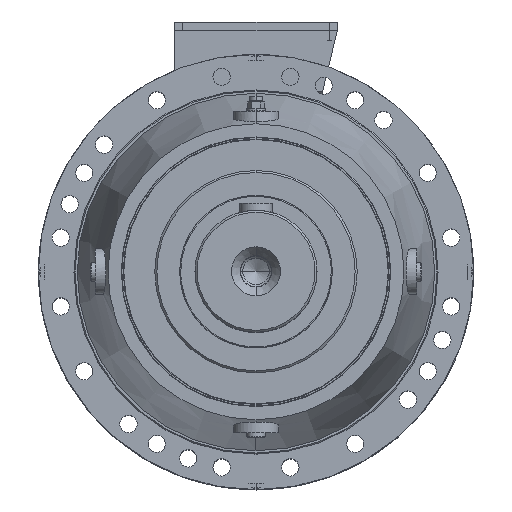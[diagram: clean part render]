
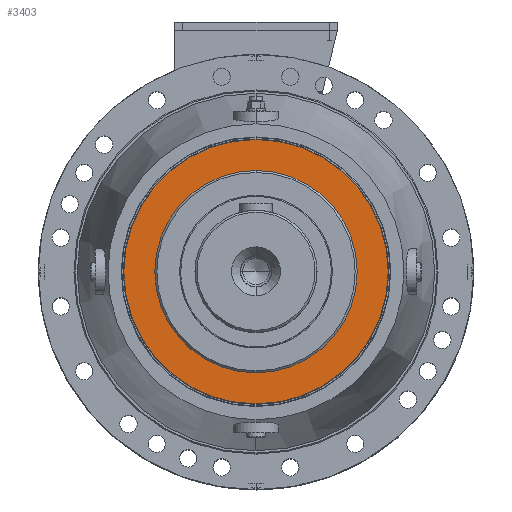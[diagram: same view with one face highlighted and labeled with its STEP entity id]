
A CAD part, top view. The second image highlights one B-rep face of the part: STEP entity #3403.
In plain terms, the highlighted planar face has unit normal (0, 0, 1).
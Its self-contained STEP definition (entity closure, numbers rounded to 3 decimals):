
#3403 = ADVANCED_FACE ( 'NONE', ( #81528, #81404 ), #74339, .F. ) ;
#50766 = VERTEX_POINT ( 'NONE', #98739 ) ;
#50839 = VERTEX_POINT ( 'NONE', #98726 ) ;
#50843 = VERTEX_POINT ( 'NONE', #98733 ) ;
#50856 = VERTEX_POINT ( 'NONE', #98725 ) ;
#58271 = AXIS2_PLACEMENT_3D ( 'NONE', #74324, #74340, #74325 ) ;
#68177 = AXIS2_PLACEMENT_3D ( 'NONE', #147780, #147777, #147800 ) ;
#68199 = AXIS2_PLACEMENT_3D ( 'NONE', #147736, #147744, #147748 ) ;
#68211 = AXIS2_PLACEMENT_3D ( 'NONE', #147782, #147783, #147784 ) ;
#68249 = AXIS2_PLACEMENT_3D ( 'NONE', #147888, #147865, #147889 ) ;
#72581 = EDGE_LOOP ( 'NONE', ( #86350, #86282 ) ) ;
#72598 = EDGE_LOOP ( 'NONE', ( #86307, #86268 ) ) ;
#74324 = CARTESIAN_POINT ( 'NONE',  ( 0., 130., 203. ) ) ;
#74325 = DIRECTION ( 'NONE',  ( 0., 1., 0. ) ) ;
#74339 = PLANE ( 'NONE',  #58271 ) ;
#74340 = DIRECTION ( 'NONE',  ( 0., 0., -1. ) ) ;
#81404 = FACE_OUTER_BOUND ( 'NONE', #72598, .T. ) ;
#81528 = FACE_BOUND ( 'NONE', #72581, .T. ) ;
#86268 = ORIENTED_EDGE ( 'NONE', *, *, #171228, .F. ) ;
#86282 = ORIENTED_EDGE ( 'NONE', *, *, #171225, .F. ) ;
#86307 = ORIENTED_EDGE ( 'NONE', *, *, #171198, .F. ) ;
#86350 = ORIENTED_EDGE ( 'NONE', *, *, #171292, .F. ) ;
#98725 = CARTESIAN_POINT ( 'NONE',  ( 0., 130., 203. ) ) ;
#98726 = CARTESIAN_POINT ( 'NONE',  ( 0., -130., 203. ) ) ;
#98733 = CARTESIAN_POINT ( 'NONE',  ( 0., -99.5, 203. ) ) ;
#98739 = CARTESIAN_POINT ( 'NONE',  ( 0., 99.5, 203. ) ) ;
#143468 = CIRCLE ( 'NONE', #68177, 99.5 ) ;
#143539 = CIRCLE ( 'NONE', #68199, 130. ) ;
#143610 = CIRCLE ( 'NONE', #68211, 130. ) ;
#143735 = CIRCLE ( 'NONE', #68249, 99.5 ) ;
#147736 = CARTESIAN_POINT ( 'NONE',  ( 0., 0., 203. ) ) ;
#147744 = DIRECTION ( 'NONE',  ( 0., 0., -1. ) ) ;
#147748 = DIRECTION ( 'NONE',  ( 0., 1., 0. ) ) ;
#147777 = DIRECTION ( 'NONE',  ( 0., 0., 1. ) ) ;
#147780 = CARTESIAN_POINT ( 'NONE',  ( 0., 0., 203. ) ) ;
#147782 = CARTESIAN_POINT ( 'NONE',  ( 0., 0., 203. ) ) ;
#147783 = DIRECTION ( 'NONE',  ( 0., 0., -1. ) ) ;
#147784 = DIRECTION ( 'NONE',  ( 0., 1., 0. ) ) ;
#147800 = DIRECTION ( 'NONE',  ( 0., 1., 0. ) ) ;
#147865 = DIRECTION ( 'NONE',  ( 0., 0., 1. ) ) ;
#147888 = CARTESIAN_POINT ( 'NONE',  ( 0., 0., 203. ) ) ;
#147889 = DIRECTION ( 'NONE',  ( 0., 1., 0. ) ) ;
#171198 = EDGE_CURVE ( 'NONE', #50856, #50839, #143539, .T. ) ;
#171225 = EDGE_CURVE ( 'NONE', #50843, #50766, #143468, .T. ) ;
#171228 = EDGE_CURVE ( 'NONE', #50839, #50856, #143610, .T. ) ;
#171292 = EDGE_CURVE ( 'NONE', #50766, #50843, #143735, .T. ) ;
